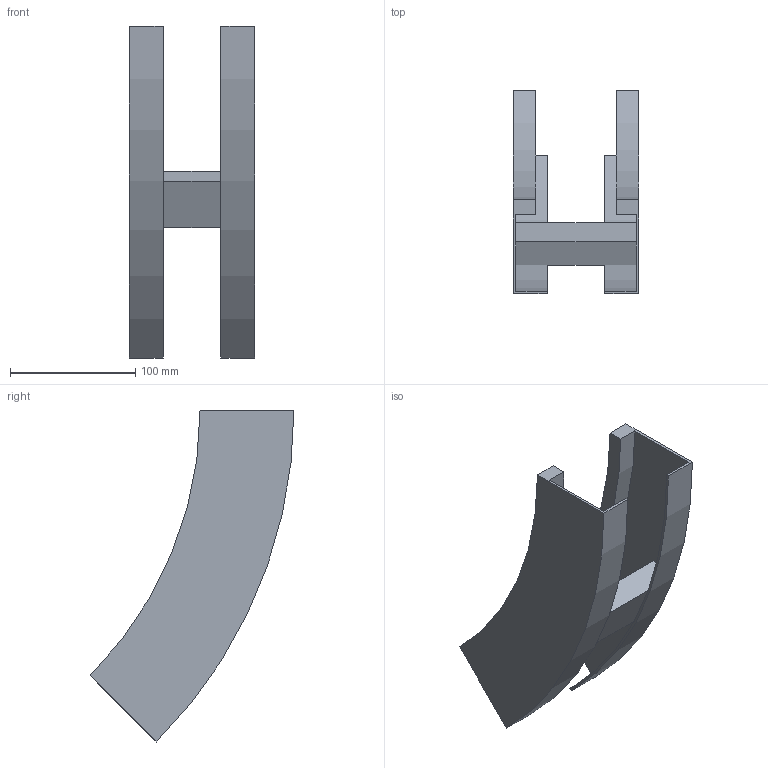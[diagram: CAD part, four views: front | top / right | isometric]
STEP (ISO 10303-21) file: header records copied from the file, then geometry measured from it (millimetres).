
FILE_DESCRIPTION (( 'STEP AP214' ), '1' );
FILE_NAME ('B2X31B3C100XX.step', '2025-03-20T10:10:10', ( '' ), ( '' ), 'SwSTEP 2.0', 'SolidWorks 2023', '' );
FILE_SCHEMA (( 'AUTOMOTIVE_DESIGN' ));
Length unit declared in the file: millimetre
Products named in the file (3): B2X31B3C100XX; B2_LONGH.SALITA_45°_H75_R300; TRAVERSINO_100
Assembly tree (3 placements, depth 2):
  B2X31B3C100XX
    B2_LONGH.SALITA_45°_H75_R300  x2
    TRAVERSINO_100
Bounding box: 100 x 162.87 x 265.17 mm (x, y, z)
Volume: 278942.9 mm3; surface area: 141201.3 mm2
Topology: 3 solids, 3 shells, 26 faces, 60 edges, 40 vertices
Faces by surface type: plane 18, cylinder 8
Entity records: 544 total; most frequent: DIRECTION 88, CARTESIAN_POINT 82, ORIENTED_EDGE 72, EDGE_CURVE 36, AXIS2_PLACEMENT_3D 30, VECTOR 28, LINE 28, VERTEX_POINT 24
